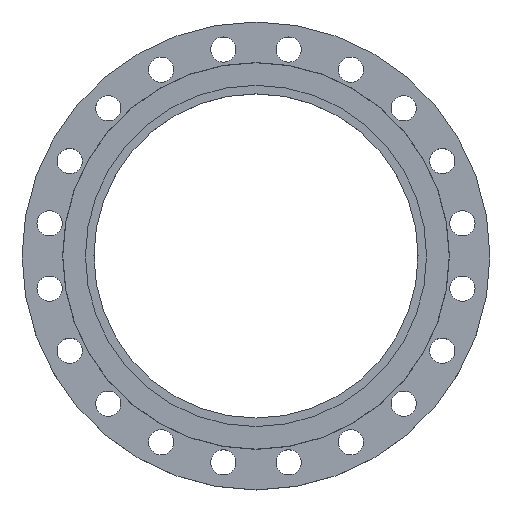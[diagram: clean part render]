
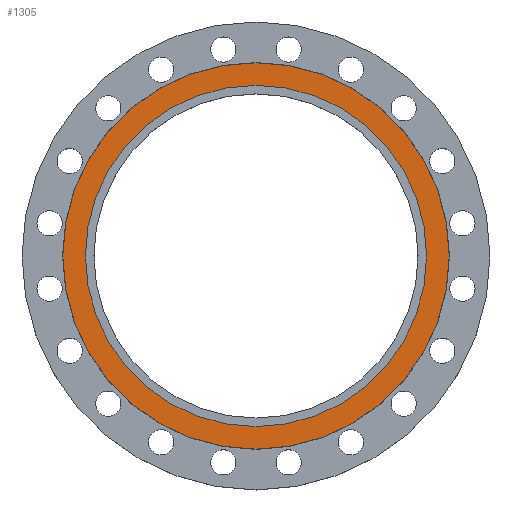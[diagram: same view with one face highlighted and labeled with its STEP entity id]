
A CAD part, top view. The second image highlights one B-rep face of the part: STEP entity #1305.
In plain terms, the highlighted planar face has unit normal (0, 0, 1).
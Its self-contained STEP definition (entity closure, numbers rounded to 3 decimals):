
#149 = CIRCLE ( 'NONE', #1803, 367.5 ) ;
#169 = EDGE_CURVE ( 'NONE', #1360, #1164, #613, .T. ) ;
#181 = CARTESIAN_POINT ( 'NONE',  ( 367.5, 0., 0. ) ) ;
#224 = CARTESIAN_POINT ( 'NONE',  ( -367.5, 0., 0. ) ) ;
#278 = AXIS2_PLACEMENT_3D ( 'NONE', #413, #412, #410 ) ;
#355 = DIRECTION ( 'NONE',  ( -1., 0., 0. ) ) ;
#356 = DIRECTION ( 'NONE',  ( 0., 0., -1. ) ) ;
#357 = CARTESIAN_POINT ( 'NONE',  ( 0., 0., 0. ) ) ;
#382 = CARTESIAN_POINT ( 'NONE',  ( -324.5, 0., 0. ) ) ;
#410 = DIRECTION ( 'NONE',  ( 1., 0., 0. ) ) ;
#411 = CIRCLE ( 'NONE', #419, 367.5 ) ;
#412 = DIRECTION ( 'NONE',  ( 0., 0., 1. ) ) ;
#413 = CARTESIAN_POINT ( 'NONE',  ( 0., 0., 0. ) ) ;
#415 = PLANE ( 'NONE',  #278 ) ;
#416 = FACE_BOUND ( 'NONE', #1354, .T. ) ;
#418 = FACE_OUTER_BOUND ( 'NONE', #1136, .T. ) ;
#419 = AXIS2_PLACEMENT_3D ( 'NONE', #728, #727, #726 ) ;
#501 = CARTESIAN_POINT ( 'NONE',  ( 324.5, 0., 0. ) ) ;
#505 = CIRCLE ( 'NONE', #516, 324.5 ) ;
#516 = AXIS2_PLACEMENT_3D ( 'NONE', #684, #683, #682 ) ;
#613 = CIRCLE ( 'NONE', #638, 324.5 ) ;
#638 = AXIS2_PLACEMENT_3D ( 'NONE', #1030, #1029, #1028 ) ;
#682 = DIRECTION ( 'NONE',  ( -1., 0., 0. ) ) ;
#683 = DIRECTION ( 'NONE',  ( 0., 0., -1. ) ) ;
#684 = CARTESIAN_POINT ( 'NONE',  ( 0., 0., 0. ) ) ;
#726 = DIRECTION ( 'NONE',  ( -1., 0., 0. ) ) ;
#727 = DIRECTION ( 'NONE',  ( 0., 0., -1. ) ) ;
#728 = CARTESIAN_POINT ( 'NONE',  ( 0., 0., 0. ) ) ;
#809 = EDGE_CURVE ( 'NONE', #1629, #1675, #411, .T. ) ;
#885 = EDGE_CURVE ( 'NONE', #1164, #1360, #505, .T. ) ;
#1028 = DIRECTION ( 'NONE',  ( -1., 0., 0. ) ) ;
#1029 = DIRECTION ( 'NONE',  ( 0., 0., -1. ) ) ;
#1030 = CARTESIAN_POINT ( 'NONE',  ( 0., 0., 0. ) ) ;
#1136 = EDGE_LOOP ( 'NONE', ( #1523, #1521 ) ) ;
#1164 = VERTEX_POINT ( 'NONE', #501 ) ;
#1305 = ADVANCED_FACE ( 'NONE', ( #418, #416 ), #415, .T. ) ;
#1354 = EDGE_LOOP ( 'NONE', ( #1519, #1518 ) ) ;
#1360 = VERTEX_POINT ( 'NONE', #382 ) ;
#1424 = EDGE_CURVE ( 'NONE', #1675, #1629, #149, .T. ) ;
#1518 = ORIENTED_EDGE ( 'NONE', *, *, #885, .T. ) ;
#1519 = ORIENTED_EDGE ( 'NONE', *, *, #169, .T. ) ;
#1521 = ORIENTED_EDGE ( 'NONE', *, *, #1424, .F. ) ;
#1523 = ORIENTED_EDGE ( 'NONE', *, *, #809, .F. ) ;
#1629 = VERTEX_POINT ( 'NONE', #224 ) ;
#1675 = VERTEX_POINT ( 'NONE', #181 ) ;
#1803 = AXIS2_PLACEMENT_3D ( 'NONE', #357, #356, #355 ) ;
